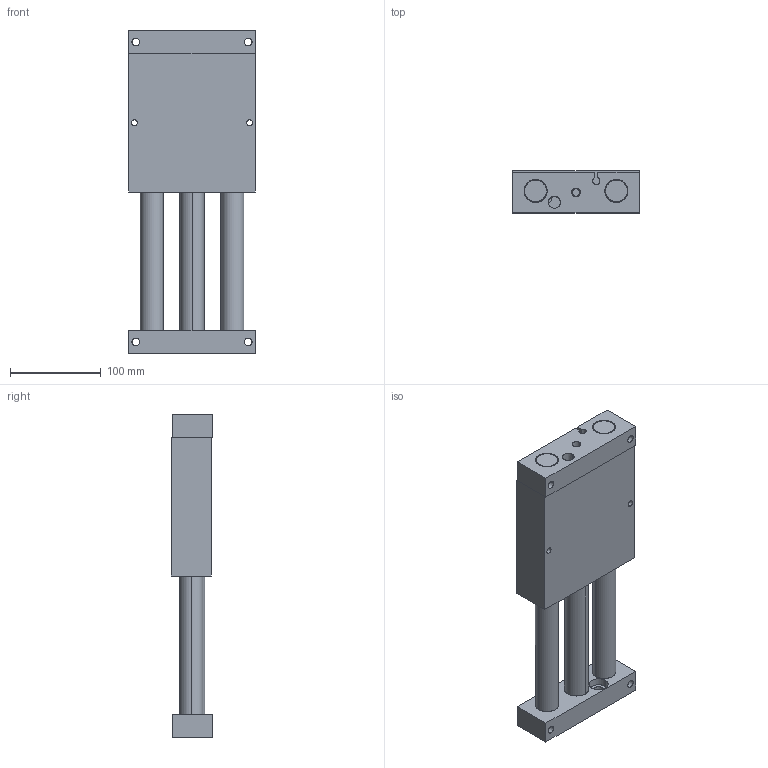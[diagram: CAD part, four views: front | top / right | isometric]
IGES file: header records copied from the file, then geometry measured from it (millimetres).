
Start section: SolidWorks IGES file using analytic representation for surfaces
Global section: file name: C:\Users\jmkuhnes\Pictures\My Transfers\AGSL\AGSL-6\AGSL-6 NO SHOCKS in MM.IGS; native system: SolidWorks 2013; preprocessor: SolidWorks 2013; author: jmkuhnes; date: 141107.110438; units: millimetre
Bounding box: 139.7 x 46.05 x 355.6 mm (x, y, z)
Surface area: 257724.4 mm2 (no closed solid volume)
Topology: 0 solids, 0 shells, 164 faces, 4416 edges, 4412 vertices
Faces by surface type: revolution 114, bspline 50
